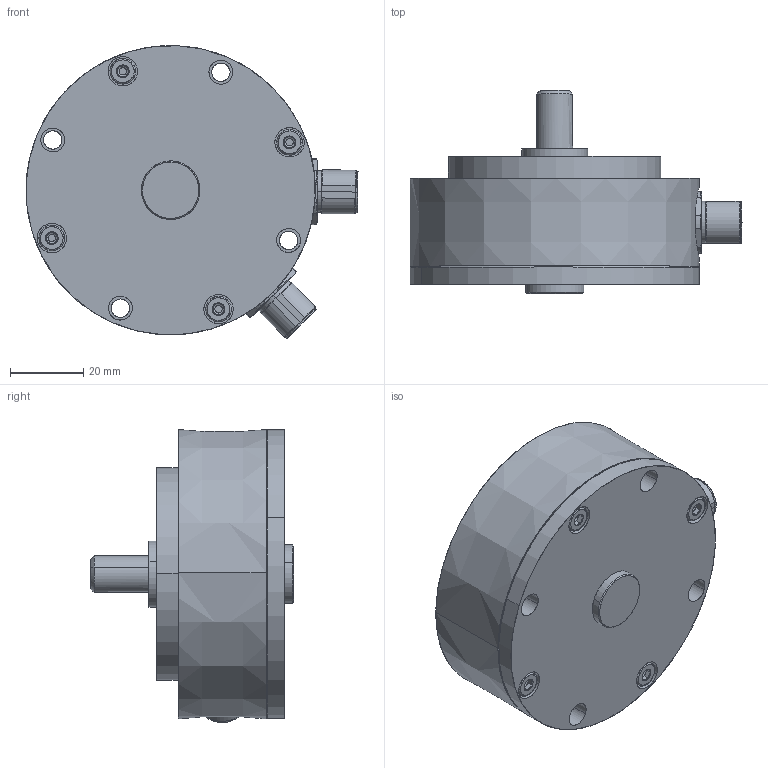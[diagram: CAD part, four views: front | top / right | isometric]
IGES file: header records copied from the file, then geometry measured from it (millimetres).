
Start section: SolidWorks IGES file using analytic representation for surfaces
Global section: file name: E:\Widmaier\3D-Daten\IPX\IPX-7943-_ _ _-_ _ _-651.IGS; native system: SolidWorks 2014; preprocessor: SolidWorks 2014; author: thiel; date: 170914.111259; units: millimetre
Bounding box: 90.65 x 55.5 x 79.98 mm (x, y, z)
Surface area: 26672.6 mm2 (no closed solid volume)
Topology: 0 solids, 0 shells, 285 faces, 4092 edges, 4090 vertices
Faces by surface type: revolution 172, bspline 113
